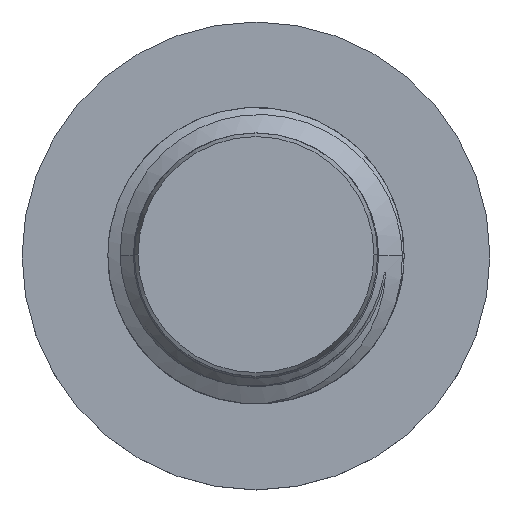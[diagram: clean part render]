
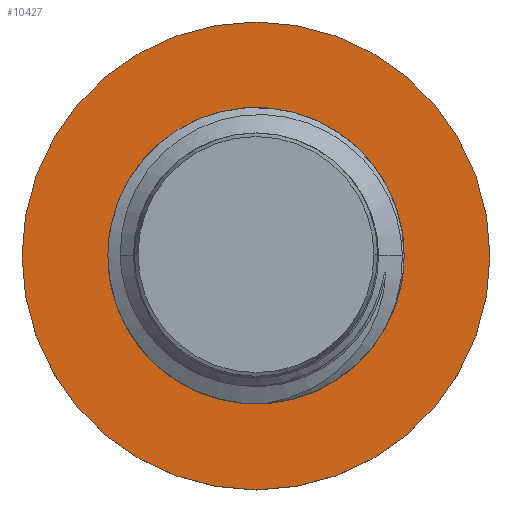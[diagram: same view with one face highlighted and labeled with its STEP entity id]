
A CAD part, top view. The second image highlights one B-rep face of the part: STEP entity #10427.
In plain terms, the highlighted planar face has unit normal (0, 0, 1).
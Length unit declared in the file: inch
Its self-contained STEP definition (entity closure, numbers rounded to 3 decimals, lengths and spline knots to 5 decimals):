
#140 = CIRCLE ( 'NONE', #3844, 0.20525 ) ;
#141 = ORIENTED_EDGE ( 'NONE', *, *, #16816, .F. ) ;
#649 = CARTESIAN_POINT ( 'NONE',  ( 0., 0., 0.25 ) ) ;
#1469 = ORIENTED_EDGE ( 'NONE', *, *, #13157, .T. ) ;
#1684 = DIRECTION ( 'NONE',  ( 0., 0., -1. ) ) ;
#2616 = ORIENTED_EDGE ( 'NONE', *, *, #10010, .T. ) ;
#2928 = CARTESIAN_POINT ( 'NONE',  ( 0., 0.3455, 0.25 ) ) ;
#3844 = AXIS2_PLACEMENT_3D ( 'NONE', #649, #16893, #10170 ) ;
#3859 = VERTEX_POINT ( 'NONE', #11633 ) ;
#3927 = EDGE_LOOP ( 'NONE', ( #2616, #1469 ) ) ;
#4250 = DIRECTION ( 'NONE',  ( -1., 0., 0. ) ) ;
#4429 = CARTESIAN_POINT ( 'NONE',  ( 0., 0., 0.25 ) ) ;
#4715 = CARTESIAN_POINT ( 'NONE',  ( 0.20525, 0., 0.25 ) ) ;
#5087 = VERTEX_POINT ( 'NONE', #8953 ) ;
#5543 = AXIS2_PLACEMENT_3D ( 'NONE', #2928, #8257, #5925 ) ;
#5925 = DIRECTION ( 'NONE',  ( 1., 0., 0. ) ) ;
#6930 = VERTEX_POINT ( 'NONE', #4715 ) ;
#7376 = AXIS2_PLACEMENT_3D ( 'NONE', #4429, #12316, #8333 ) ;
#7724 = AXIS2_PLACEMENT_3D ( 'NONE', #15328, #1684, #4250 ) ;
#8257 = DIRECTION ( 'NONE',  ( 0., 0., 1. ) ) ;
#8333 = DIRECTION ( 'NONE',  ( -1., 0., 0. ) ) ;
#8348 = CARTESIAN_POINT ( 'NONE',  ( -0.20525, 0., 0.25 ) ) ;
#8351 = EDGE_LOOP ( 'NONE', ( #141, #16001 ) ) ;
#8953 = CARTESIAN_POINT ( 'NONE',  ( -0.3455, 0., 0.25 ) ) ;
#9558 = CARTESIAN_POINT ( 'NONE',  ( 0., 0., 0.25 ) ) ;
#9899 = CIRCLE ( 'NONE', #12699, 0.3455 ) ;
#10010 = EDGE_CURVE ( 'NONE', #14997, #6930, #140, .T. ) ;
#10170 = DIRECTION ( 'NONE',  ( -1., 0., 0. ) ) ;
#10427 = ADVANCED_FACE ( 'NONE', ( #14001, #15247 ), #12409, .T. ) ;
#11633 = CARTESIAN_POINT ( 'NONE',  ( 0.3455, 0., 0.25 ) ) ;
#12316 = DIRECTION ( 'NONE',  ( 0., 0., -1. ) ) ;
#12409 = PLANE ( 'NONE',  #5543 ) ;
#12459 = DIRECTION ( 'NONE',  ( 0., 0., -1. ) ) ;
#12699 = AXIS2_PLACEMENT_3D ( 'NONE', #9558, #12459, #14941 ) ;
#13100 = CIRCLE ( 'NONE', #7724, 0.3455 ) ;
#13157 = EDGE_CURVE ( 'NONE', #6930, #14997, #13615, .T. ) ;
#13615 = CIRCLE ( 'NONE', #7376, 0.20525 ) ;
#14001 = FACE_BOUND ( 'NONE', #3927, .T. ) ;
#14657 = EDGE_CURVE ( 'NONE', #3859, #5087, #13100, .T. ) ;
#14941 = DIRECTION ( 'NONE',  ( -1., 0., 0. ) ) ;
#14997 = VERTEX_POINT ( 'NONE', #8348 ) ;
#15247 = FACE_OUTER_BOUND ( 'NONE', #8351, .T. ) ;
#15328 = CARTESIAN_POINT ( 'NONE',  ( 0., 0., 0.25 ) ) ;
#16001 = ORIENTED_EDGE ( 'NONE', *, *, #14657, .F. ) ;
#16816 = EDGE_CURVE ( 'NONE', #5087, #3859, #9899, .T. ) ;
#16893 = DIRECTION ( 'NONE',  ( 0., 0., -1. ) ) ;
